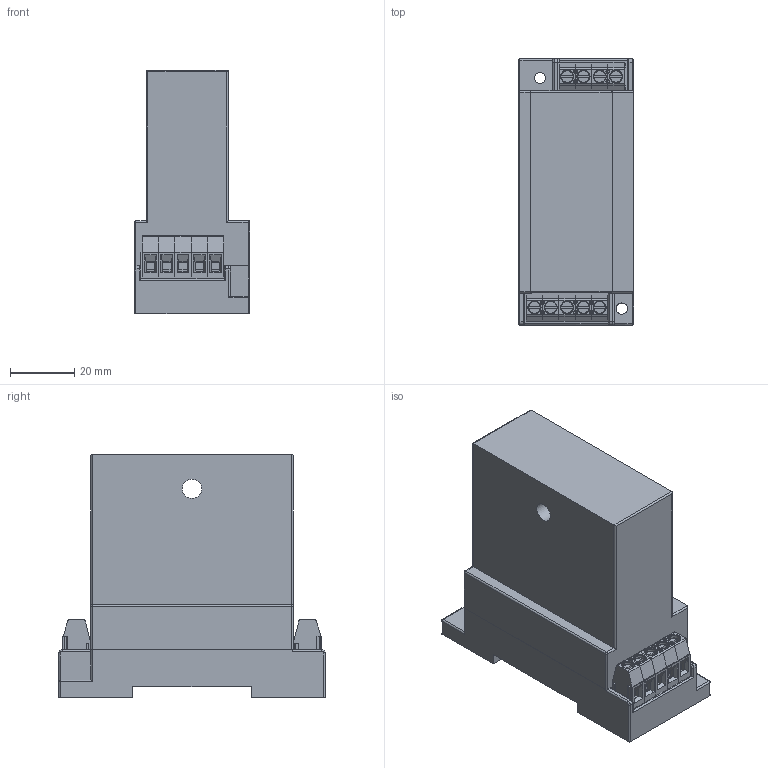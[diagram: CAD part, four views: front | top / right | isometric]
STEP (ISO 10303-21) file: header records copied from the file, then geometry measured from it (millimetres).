
FILE_DESCRIPTION(/* description */ ('Alibre Inc.'),/* implementation_level */ '2;1');
FILE_NAME(/* name */ 'export0',/* time_stamp */ '2013-08-12T09:13:23-06:00',/* author */ (''),/* organization */ (''),/* preprocessor_version */ 'ST-DEVELOPER v14',/* originating_system */ 'Alibre',/* authorisation */ '');
FILE_SCHEMA (('ALIBRE_SCHEMA','CONFIG_CONTROL_DESIGN'));
Length unit declared in the file: centimetre
Products named in the file (8): ID_1; 1; 2; 3; ID_2
Bounding box: 36.04 x 83 x 76 mm (x, y, z)
Volume: 147620.5 mm3; surface area: 27544.8 mm2
Topology: 10 solids, 10 shells, 1485 faces, 4075 edges, 2651 vertices
Faces by surface type: plane 861, cylinder 394, bspline 108, torus 80, cone 38, sphere 4
Full cylindrical faces by diameter (mm): 3.5 x2, 6 x1
Entity records: 66134 total; most frequent: CARTESIAN_POINT 18860, ORIENTED_EDGE 8942, DIRECTION 7176, EDGE_CURVE 4471, VECTOR 3268, LINE 3201, VERTEX_POINT 2914, AXIS2_PLACEMENT_3D 2469
